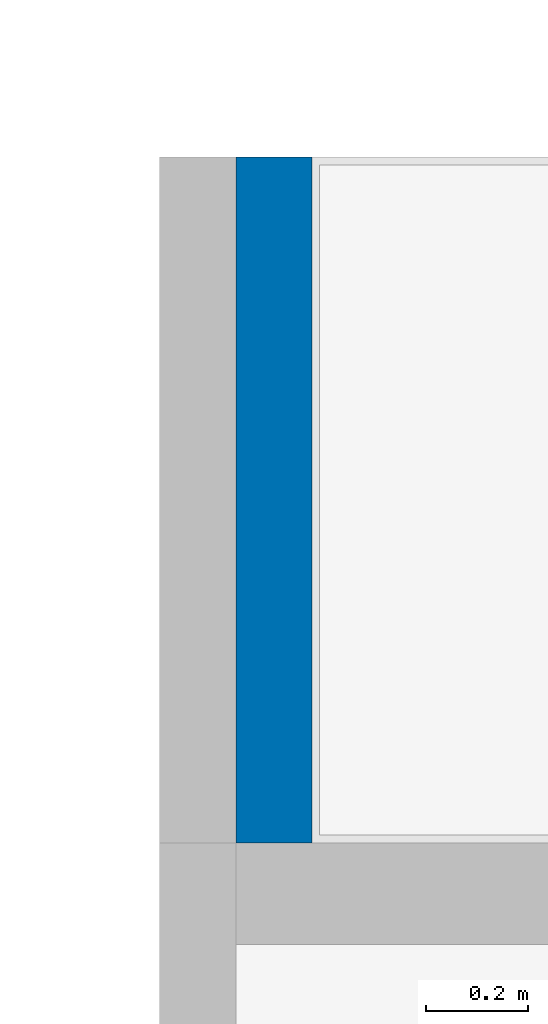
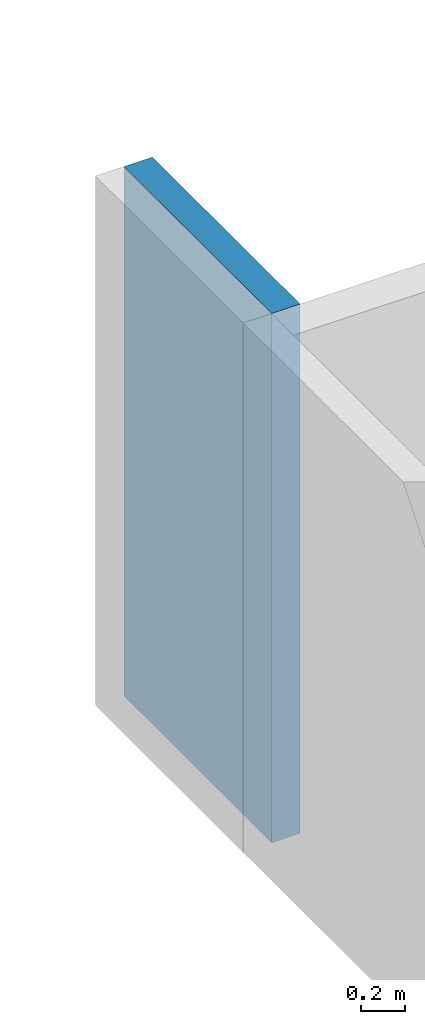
# One storey, part 6 of 9: 1 wall.
"""IFC4 building model written with IfcOpenShell, lengths in millimetres."""

from ifc_helpers import new_model, entity, si_unit, converted_unit, derived_unit, direction, frame, origin_with_axes, place, context, subcontext, project, spatial, polygons, material, constituent, constituent_set, type_object, element, save


model = new_model("IFC4")

# Units and contexts
model_context = context("Model", 3, precision=0.01, world=origin_with_axes(), true_north=direction((0.0, 1.0)))
body_context = subcontext(model_context, "Body", "Model", "MODEL_VIEW")
ifc_project = project(units=[si_unit("LENGTHUNIT", "METRE", prefix="MILLI"), si_unit("AREAUNIT", "SQUARE_METRE"), si_unit("VOLUMEUNIT", "CUBIC_METRE"), converted_unit("PLANEANGLEUNIT", "DEGREE", entity("IfcPlaneAngleMeasure", 0.0174532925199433), si_unit("PLANEANGLEUNIT", "RADIAN"), dimensions=[0, 0, 0, 0, 0, 0, 0]), converted_unit("TIMEUNIT", "Year", entity("IfcTimeMeasure", 31557600.0), si_unit("TIMEUNIT", "SECOND"), dimensions=[0, 0, 1, 0, 0, 0, 0]), si_unit("MASSUNIT", "GRAM", prefix="KILO"), si_unit("THERMODYNAMICTEMPERATUREUNIT", "DEGREE_CELSIUS"), si_unit("LUMINOUSINTENSITYUNIT", "LUMEN"), si_unit("ENERGYUNIT", "JOULE", prefix="MEGA"), derived_unit("THERMALCONDUCTANCEUNIT", [(si_unit("POWERUNIT", "WATT"), 1), (si_unit("LENGTHUNIT", "METRE"), -1), (si_unit("THERMODYNAMICTEMPERATUREUNIT", "KELVIN"), -1)]), derived_unit("SPECIFICHEATCAPACITYUNIT", [(si_unit("ENERGYUNIT", "JOULE"), 1), (si_unit("MASSUNIT", "GRAM", prefix="KILO"), -1), (si_unit("THERMODYNAMICTEMPERATUREUNIT", "KELVIN"), -1)]), derived_unit("MASSDENSITYUNIT", [(si_unit("MASSUNIT", "GRAM", prefix="KILO"), 1), (si_unit("VOLUMEUNIT", "CUBIC_METRE"), -1)])], contexts=[model_context])

# Site, building, storey
site_placement = place(None, origin_with_axes())
site = spatial("IfcSite", under=ifc_project, at=site_placement, Name="Exteriér", CompositionType="ELEMENT")
building_placement = place(site_placement, origin_with_axes())
building = spatial("IfcBuilding", under=site, at=building_placement, Name="Univerzitní lezecké centrum", CompositionType="ELEMENT")
storey_placement = place(building_placement, origin_with_axes())
storey = spatial("IfcBuildingStorey", under=building, at=storey_placement, Name="1.NP", CompositionType="ELEMENT", Elevation=0.0)

# Wall
ifc_material_1 = material(Name="SDK nosný rám")
ifc_constituent_1 = constituent(ifc_material_1, Name="SDK nosný rám")
ifc_material_2 = material(Name="Sádrokarton - voděodolný")
ifc_constituent_2 = constituent(ifc_material_2, Name="Sádrokarton - voděodolný 1")
ifc_constituent_3 = constituent(ifc_material_2, Name="Sádrokarton - voděodolný 2")
ifc_material_3 = material(Name="Lepicí tmel na dlažbu a obklady")
ifc_constituent_4 = constituent(ifc_material_3, Name="Lepicí tmel na dlažbu a obklady")
ifc_material_4 = material(Name="Keramická dlažba 20x40 - obklad")
ifc_constituent_5 = constituent(ifc_material_4, Name="Keramická dlažba 20x40 - obklad")
ifc_constituent_set = constituent_set(constituents=[ifc_constituent_1, ifc_constituent_2, ifc_constituent_3, ifc_constituent_4, ifc_constituent_5], Name="SDK - instalační předstěna")
wall_type = type_object("IfcWallType", Name="SDK - instalační předstěna 150", PredefinedType="NOTDEFINED")
wall_placement = place(storey_placement, frame((-5100.148351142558, 3050.000000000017, -120.000000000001), z_axis=(0.0, 0.0, 1.0), x_axis=(0.0, 1.0, 0.0)))
element("IfcWall", 1, at=wall_placement, inside=storey, type_object=wall_type, material=ifc_constituent_set, Name="St08", PredefinedType="NOTDEFINED", context=body_context, shape_type="Tessellation", body=[
    polygons([(1349.999999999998, 0.0, 0.0), (1349.999999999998, -115.000000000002, 0.0), (0.0, -115.0000000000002, 0.0), (0.0, 0.0, 0.0), (1349.999999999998, 0.0, 2950.000000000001), (1349.999999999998, -115.000000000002, 2950.000000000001), (0.0, -115.0000000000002, 2950.000000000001), (0.0, 0.0, 2950.000000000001)], [[[1, 2, 3, 4]], [[2, 1, 5, 6]], [[2, 6, 7, 3]], [[8, 4, 3, 7]], [[5, 1, 4, 8]], [[6, 5, 8, 7]]], closed=True),
    polygons([(1349.999999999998, -115.000000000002, 0.0), (1349.999999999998, -127.0000000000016, 0.0), (0.0, -126.9999999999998, 0.0), (0.0, -115.0000000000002, 0.0), (1349.999999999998, -115.000000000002, 2950.000000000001), (1349.999999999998, -127.0000000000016, 2950.000000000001), (0.0, -126.9999999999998, 2950.000000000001), (0.0, -115.0000000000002, 2950.000000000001)], [[[1, 2, 3, 4]], [[2, 1, 5, 6]], [[2, 6, 7, 3]], [[8, 4, 3, 7]], [[5, 1, 4, 8]], [[6, 5, 8, 7]]], closed=True),
    polygons([(1349.999999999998, -127.0000000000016, 0.0), (1349.999999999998, -140.0000000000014, 0.0), (0.0, -139.9999999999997, 0.0), (0.0, -126.9999999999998, 0.0), (1349.999999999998, -127.0000000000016, 2950.000000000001), (1349.999999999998, -140.0000000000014, 2950.000000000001), (0.0, -139.9999999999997, 2950.000000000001), (0.0, -126.9999999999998, 2950.000000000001)], [[[1, 2, 3, 4]], [[2, 1, 5, 6]], [[2, 6, 7, 3]], [[8, 4, 3, 7]], [[5, 1, 4, 8]], [[6, 5, 8, 7]]], closed=True),
    polygons([(1349.999999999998, -140.0000000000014, 0.0), (1349.999999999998, -143.0000000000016, 0.0), (0.0, -142.9999999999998, 0.0), (0.0, -139.9999999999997, 0.0), (1349.999999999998, -140.0000000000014, 2950.000000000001), (1349.999999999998, -143.0000000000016, 2950.000000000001), (0.0, -142.9999999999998, 2950.000000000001), (0.0, -139.9999999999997, 2950.000000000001)], [[[1, 2, 3, 4]], [[2, 1, 5, 6]], [[2, 6, 7, 3]], [[8, 4, 3, 7]], [[5, 1, 4, 8]], [[6, 5, 8, 7]]], closed=True),
    polygons([(1349.999999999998, -143.0000000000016, 0.0), (1349.999999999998, -150.0000000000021, 0.0), (0.0, -150.0000000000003, 0.0), (0.0, -142.9999999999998, 0.0), (1349.999999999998, -143.0000000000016, 2950.000000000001), (1349.999999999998, -150.0000000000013, 2950.000000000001), (0.0, -149.9999999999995, 2950.000000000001), (0.0, -142.9999999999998, 2950.000000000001)], [[[1, 2, 3, 4]], [[2, 1, 5, 6]], [[2, 6, 7, 3]], [[8, 4, 3, 7]], [[5, 1, 4, 8]], [[6, 5, 8, 7]]], closed=True),
])

save(model, "model.ifc")
